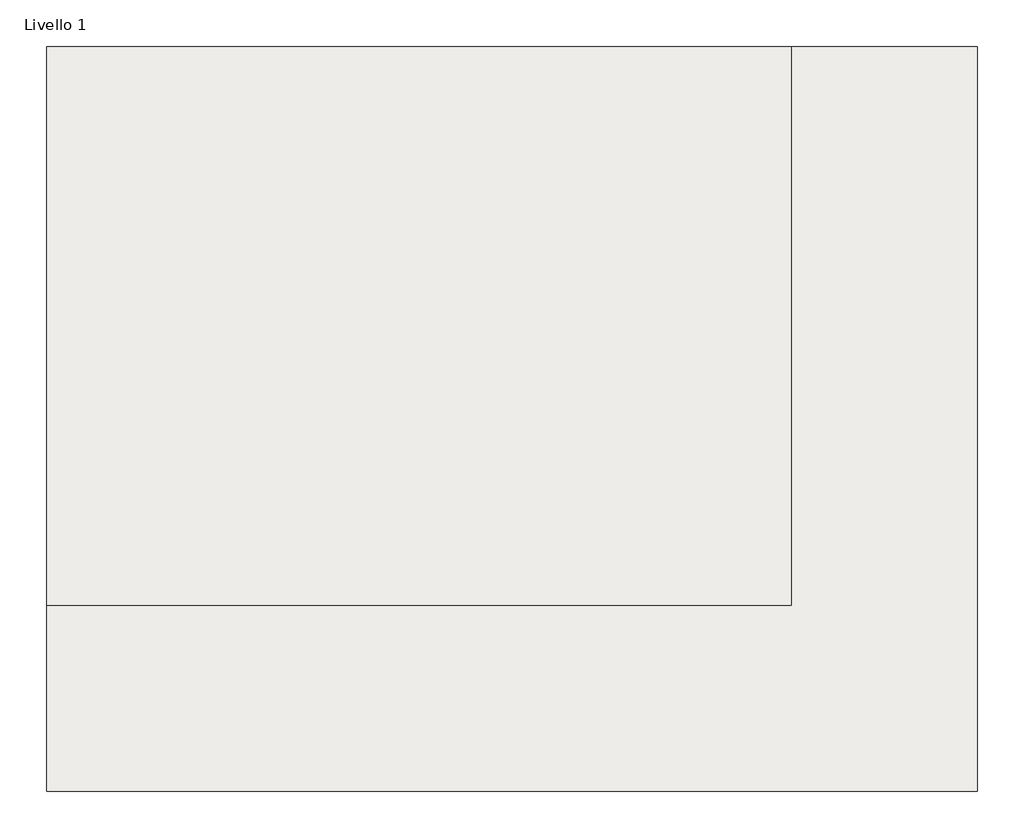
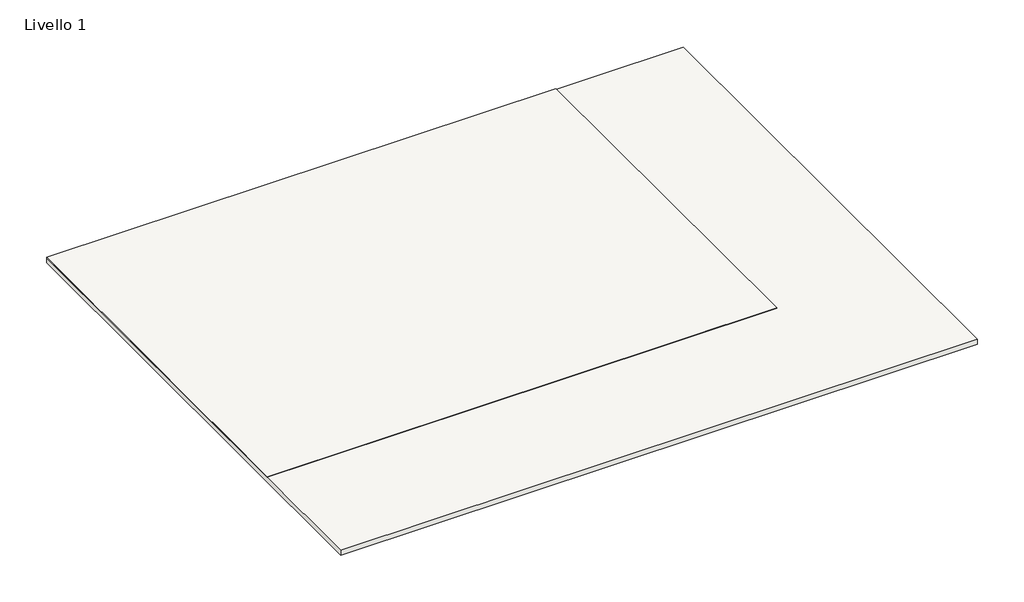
# One storey: 1 slab.
"""IFC4 building model written with IfcOpenShell, lengths in millimetres."""

import ifcopenshell
import ifcopenshell.guid

model = None  # the IFC model being written
_history = None  # IfcOwnerHistory: only IFC2X3 demands one
_inside = {}  # id of a spatial element -> (the spatial element, [elements in it])
_under = {}  # id of a project, library or spatial element -> (it, [spatial elements below it])
_declared = {}  # id of a project -> (the project, [libraries it declares])
_typed = {}  # id of a type object -> (the type object, [elements of that type])
_made_of = {}  # id of a material, layer set ... -> (it, [elements and type objects made of it])


def new_model(schema):
    """Start an empty IFC model of exactly this schema.

    Asked for "IFC4X3", IfcOpenShell would pick the latest addendum, in which some entities
    have other attributes; the version numbers below select the first issue.
    IFC2X3 requires an IfcOwnerHistory on every rooted entity: one is made here for all.
    """
    global model, _history
    if schema == "IFC4X3":
        model = ifcopenshell.file(schema_version=(4, 3, 0, 0))
    else:
        model = ifcopenshell.file(schema=schema)
    _inside.clear()
    _under.clear()
    _declared.clear()
    _typed.clear()
    _made_of.clear()
    _history = None
    if model.schema == "IFC2X3":
        org = make("IfcOrganization", Name="unknown")
        user = make(
            "IfcPersonAndOrganization",
            ThePerson=make("IfcPerson", FamilyName="unknown"),
            TheOrganization=org,
        )
        app = make(
            "IfcApplication",
            ApplicationDeveloper=org,
            Version="unknown",
            ApplicationFullName="unknown",
            ApplicationIdentifier="unknown",
        )
        _history = make(
            "IfcOwnerHistory",
            OwningUser=user,
            OwningApplication=app,
            ChangeAction="ADDED",
            CreationDate=0,
        )
    return model


def make(cls, **values):
    """One entity of the class cls with the attributes given. An attribute that is None is left unset."""
    return model.create_entity(
        cls, **{name: value for name, value in values.items() if value is not None}
    )


def rooted(cls, **values):
    """An entity with a GlobalId (a new one), such as an element, a storey or a relation."""
    return make(cls, GlobalId=ifcopenshell.guid.new(), OwnerHistory=_history, **values)


def si_unit(unit_type, name, prefix=None):
    """IfcSIUnit, for example si_unit("LENGTHUNIT", "METRE", prefix="MILLI")."""
    return make("IfcSIUnit", UnitType=unit_type, Prefix=prefix, Name=name)


def assignment(units):
    """IfcUnitAssignment: the units of a project."""
    return None if units is None else make("IfcUnitAssignment", Units=units)


def point(xyz):
    """IfcCartesianPoint."""
    return None if xyz is None else make("IfcCartesianPoint", Coordinates=xyz)


def direction(xyz):
    """IfcDirection."""
    return None if xyz is None else make("IfcDirection", DirectionRatios=xyz)


def frame(location, z_axis=None, x_axis=None):
    """IfcAxis2Placement3D, a coordinate frame: its origin and axes. An axis left out is left unset."""
    return make(
        "IfcAxis2Placement3D",
        Location=point(location),
        Axis=direction(z_axis),
        RefDirection=direction(x_axis),
    )


def origin():
    """The frame at (0, 0, 0) with its axes left unset."""
    return frame((0.0, 0.0, 0.0))


def place(relative_to, where):
    """IfcLocalPlacement: puts the frame where relative to a parent placement (None: the world)."""
    return make(
        "IfcLocalPlacement", PlacementRelTo=relative_to, RelativePlacement=where
    )


def context(
    kind, dimensions, precision=None, world=None, true_north=None, identifier=None
):
    """IfcGeometricRepresentationContext, for example the 3D "Model" context."""
    return make(
        "IfcGeometricRepresentationContext",
        ContextIdentifier=identifier,
        ContextType=kind,
        CoordinateSpaceDimension=dimensions,
        Precision=precision,
        WorldCoordinateSystem=world,
        TrueNorth=true_north,
    )


def project(units=None, contexts=None):
    """IfcProject with its units and contexts."""
    return rooted(
        "IfcProject",
        Name="project",
        RepresentationContexts=contexts,
        UnitsInContext=assignment(units),
    )


def spatial(cls, under=None, at=None, **own):
    """A site, building, storey or space (cls), placed at a placement, below another one or the project."""
    s = rooted(cls, ObjectPlacement=at, **own)
    if under is not None:
        _under.setdefault(under.id(), (under, []))[1].append(s)
    return s


def polyline(points):
    """IfcPolyline through the points."""
    return make("IfcPolyline", Points=[point(p) for p in points])


def outline(outer, holes=None, kind="AREA"):
    """IfcArbitraryClosedProfileDef: a profile drawn as a closed curve; with holes, ...WithVoids."""
    if holes is None:
        return make("IfcArbitraryClosedProfileDef", ProfileType=kind, OuterCurve=outer)
    return make(
        "IfcArbitraryProfileDefWithVoids",
        ProfileType=kind,
        OuterCurve=outer,
        InnerCurves=holes,
    )


def extrude(swept, where, along, depth):
    """IfcExtrudedAreaSolid: the profile swept, set in the frame where, extruded along a direction by depth."""
    return make(
        "IfcExtrudedAreaSolid",
        SweptArea=swept,
        Position=where,
        ExtrudedDirection=direction(along),
        Depth=depth,
    )


def shape(context_of_items, identifier, shape_type, items):
    """IfcShapeRepresentation: the items that make up one representation, for example the "Body"."""
    return make(
        "IfcShapeRepresentation",
        ContextOfItems=context_of_items,
        RepresentationIdentifier=identifier,
        RepresentationType=shape_type,
        Items=items,
    )


def made_of(thing, what):
    """Note that an element or type object is made of a material, layer set ...; save() writes the relation."""
    if what is not None:
        _made_of.setdefault(what.id(), (what, []))[1].append(thing)
    return thing


def element(
    cls,
    number,
    at=None,
    inside=None,
    cuts=None,
    type_object=None,
    material=None,
    context=None,
    identifier="Body",
    shape_type=None,
    held_by="IfcProductDefinitionShape",
    body=None,
    shapes=None,
    **own,
):
    """One element of the class cls, such as IfcWall. Its Tag is "e" and its number.

    at: its placement. inside: the storey or other place that contains it. cuts: it is an
    opening in that element (IfcRelVoidsElement). A single representation is given by context,
    identifier, shape_type and body (its items); several are given by shapes. held_by: the class
    of the entity that holds the representations. save() writes the other relations.
    """
    e = rooted(cls, Tag="e%d" % number, ObjectPlacement=at, **own)
    if body is not None:
        shapes = [shape(context, identifier, shape_type, body)]
    if shapes is not None:
        e.Representation = make(held_by, Representations=shapes)
    if inside is not None:
        _inside.setdefault(inside.id(), (inside, []))[1].append(e)
    if cuts is not None:
        rooted(
            "IfcRelVoidsElement", RelatingBuildingElement=cuts, RelatedOpeningElement=e
        )
    if type_object is not None:
        _typed.setdefault(type_object.id(), (type_object, []))[1].append(e)
    return made_of(e, material)


def aggregate(whole, parts):
    """IfcRelAggregates: a whole, such as a stair, and the parts it consists of."""
    return rooted("IfcRelAggregates", RelatingObject=whole, RelatedObjects=parts)


def save(model, path):
    """Write the relations noted so far, then the file.

    IfcRelAggregates (storeys below a building ...), IfcRelContainedInSpatialStructure (elements
    in a storey), IfcRelDefinesByType, IfcRelAssociatesMaterial and IfcRelDeclares: one each for
    every whole, place, type object, material and project.
    """
    for whole, parts in _under.values():
        aggregate(whole, parts)
    for where, things in _inside.values():
        rooted(
            "IfcRelContainedInSpatialStructure",
            RelatedElements=things,
            RelatingStructure=where,
        )
    for kind, things in _typed.values():
        rooted("IfcRelDefinesByType", RelatedObjects=things, RelatingType=kind)
    for what, things in _made_of.values():
        rooted("IfcRelAssociatesMaterial", RelatedObjects=things, RelatingMaterial=what)
    for by, libraries in _declared.values():
        rooted("IfcRelDeclares", RelatingContext=by, RelatedDefinitions=libraries)
    model.write(path)


model = new_model("IFC4")

# Units and contexts
model_context = context("Model", 3, world=origin())
ifc_project = project(units=[si_unit("LENGTHUNIT", "METRE", prefix="MILLI")], contexts=[model_context])

# Site, building, storey
site = spatial("IfcSite", under=ifc_project)
building = spatial("IfcBuilding", under=site)
storey = spatial("IfcBuildingStorey", under=building, Name="Livello 1", Elevation=0.0)

# Slab
placement = place(None, origin())
element("IfcSlab", 1, ObjectType="MAPEI - Acabamento colorido para a reparação da impermeabilização de coberturas", at=placement, inside=storey, context=model_context, shape_type="SweptSolid", body=[
    extrude(outline(polyline([(2207.7963918, 684.9122843), (207.7963918, 684.9122843), (207.7963918, 2184.9122843), (2207.7963918, 2184.9122843), (2207.7963918, 684.9122843)])), frame((0.0, 0.0, -2.5), z_axis=(0.0, 0.0, 1.0), x_axis=(1.0, 0.0, 0.0)), (0.0, 0.0, 1.0), 2.5),
    extrude(outline(polyline([(2707.7963918, 184.9122843), (207.7963918, 184.9122843), (207.7963918, 2184.9122843), (2707.7963918, 2184.9122843), (2707.7963918, 184.9122843)])), frame((0.0, 0.0, -22.5), z_axis=(0.0, 0.0, 1.0), x_axis=(1.0, 0.0, 0.0)), (0.0, 0.0, 1.0), 20.0),
])

save(model, "model.ifc")
